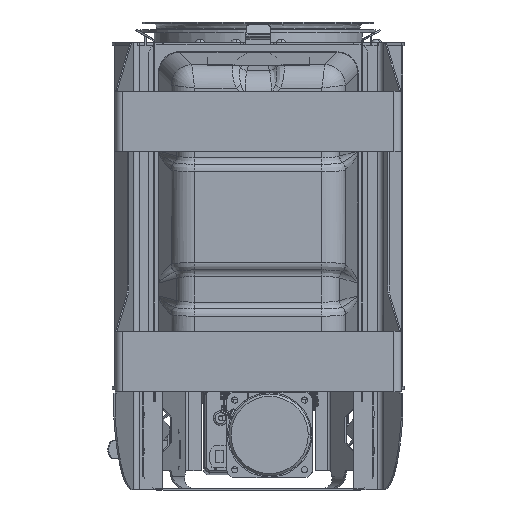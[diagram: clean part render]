
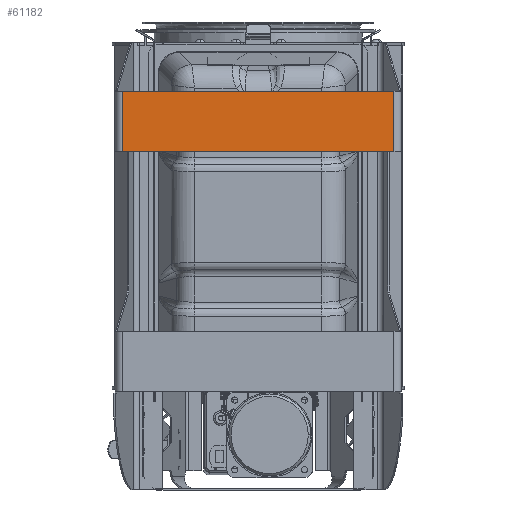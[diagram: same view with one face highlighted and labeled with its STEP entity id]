
A CAD part, front view. The second image highlights one B-rep face of the part: STEP entity #61182.
In plain terms, the highlighted planar face has unit normal (0, -1, 0).
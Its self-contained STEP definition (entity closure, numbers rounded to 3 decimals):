
#343 = ORIENTED_EDGE ( 'NONE', *, *, #33289, .T. ) ;
#4345 = VECTOR ( 'NONE', #46041, 39.37 ) ;
#9731 = DIRECTION ( 'NONE',  ( 0., 0., -1. ) ) ;
#11077 = DIRECTION ( 'NONE',  ( 0., 1., 0. ) ) ;
#11528 = DIRECTION ( 'NONE',  ( 1., 0., 0. ) ) ;
#12173 = CARTESIAN_POINT ( 'NONE',  ( -5.631, -10.032, 11.106 ) ) ;
#17824 = ORIENTED_EDGE ( 'NONE', *, *, #61043, .F. ) ;
#19284 = VECTOR ( 'NONE', #9731, 39.37 ) ;
#29032 = VERTEX_POINT ( 'NONE', #44214 ) ;
#33289 = EDGE_CURVE ( 'NONE', #90120, #63825, #68138, .T. ) ;
#33852 = EDGE_CURVE ( 'NONE', #29032, #53481, #66232, .T. ) ;
#34088 = AXIS2_PLACEMENT_3D ( 'NONE', #74214, #11077, #11528 ) ;
#43373 = LINE ( 'NONE', #71472, #19284 ) ;
#44214 = CARTESIAN_POINT ( 'NONE',  ( -5.631, -10.032, 8.606 ) ) ;
#46041 = DIRECTION ( 'NONE',  ( -1., 0., 0. ) ) ;
#49427 = VECTOR ( 'NONE', #90188, 39.37 ) ;
#50927 = EDGE_CURVE ( 'NONE', #63825, #29032, #68544, .T. ) ;
#53481 = VERTEX_POINT ( 'NONE', #75467 ) ;
#57453 = EDGE_LOOP ( 'NONE', ( #17824, #343, #58995, #63645 ) ) ;
#58995 = ORIENTED_EDGE ( 'NONE', *, *, #50927, .T. ) ;
#61043 = EDGE_CURVE ( 'NONE', #90120, #53481, #43373, .T. ) ;
#61182 = ADVANCED_FACE ( 'NONE', ( #67736 ), #66840, .F. ) ;
#63645 = ORIENTED_EDGE ( 'NONE', *, *, #33852, .T. ) ;
#63825 = VERTEX_POINT ( 'NONE', #12173 ) ;
#66232 = LINE ( 'NONE', #74963, #83878 ) ;
#66840 = PLANE ( 'NONE',  #34088 ) ;
#67736 = FACE_OUTER_BOUND ( 'NONE', #57453, .T. ) ;
#68138 = LINE ( 'NONE', #89340, #4345 ) ;
#68544 = LINE ( 'NONE', #82837, #49427 ) ;
#71472 = CARTESIAN_POINT ( 'NONE',  ( 5.631, -10.032, 13.106 ) ) ;
#74214 = CARTESIAN_POINT ( 'NONE',  ( 6., -10.032, 13.106 ) ) ;
#74963 = CARTESIAN_POINT ( 'NONE',  ( -6.212, -10.032, 8.606 ) ) ;
#75467 = CARTESIAN_POINT ( 'NONE',  ( 5.631, -10.032, 8.606 ) ) ;
#80534 = DIRECTION ( 'NONE',  ( 1., 0., 0. ) ) ;
#82837 = CARTESIAN_POINT ( 'NONE',  ( -5.631, -10.032, 13.106 ) ) ;
#83878 = VECTOR ( 'NONE', #80534, 39.37 ) ;
#88839 = CARTESIAN_POINT ( 'NONE',  ( 5.631, -10.032, 11.106 ) ) ;
#89340 = CARTESIAN_POINT ( 'NONE',  ( -6.212, -10.032, 11.106 ) ) ;
#90120 = VERTEX_POINT ( 'NONE', #88839 ) ;
#90188 = DIRECTION ( 'NONE',  ( 0., 0., -1. ) ) ;
